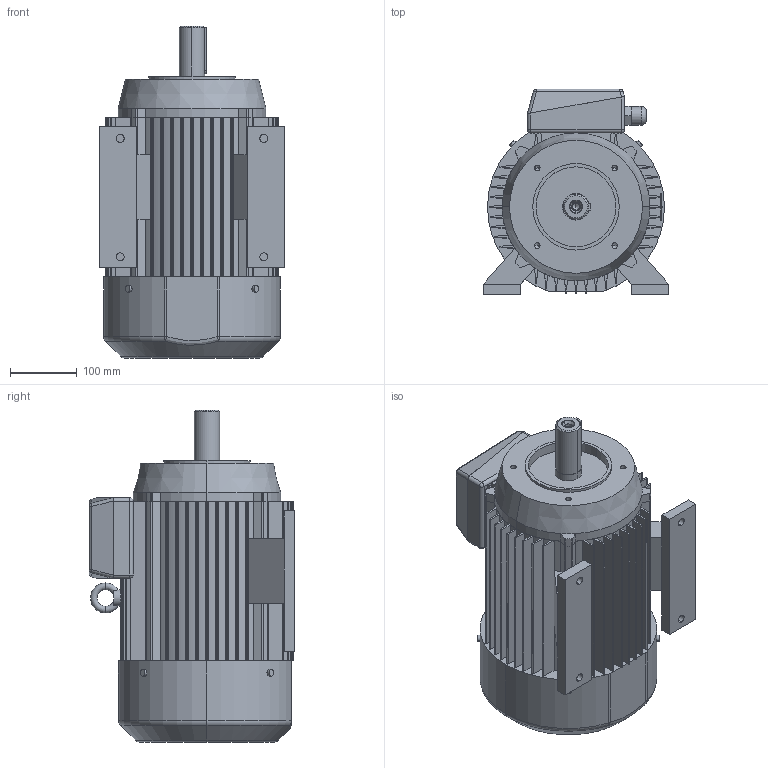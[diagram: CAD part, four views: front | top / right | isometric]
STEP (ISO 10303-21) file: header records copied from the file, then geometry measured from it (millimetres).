
FILE_DESCRIPTION (( 'STEP AP203' ), '1' );
FILE_NAME ('SLg 132M-B34-C2.STEP', '2010-04-14T13:26:07', ( 'INDUKTA' ), ( 'CANTONI MOTOR' ), 'SwSTEP 2.0', 'SolidWorks 2003064', '' );
FILE_SCHEMA (( 'CONFIG_CONTROL_DESIGN' ));
Length unit declared in the file: millimetre
Products named in the file (1): SLg 132M-B34-C2
Bounding box: 278 x 309 x 499 mm (x, y, z)
Volume: 20404893.5 mm3; surface area: 1076934.6 mm2
Topology: 14 solids, 14 shells, 534 faces, 1414 edges, 899 vertices
Faces by surface type: plane 252, cylinder 194, bspline 43, cone 22, torus 13, sphere 10
Entity records: 20074 total; most frequent: CARTESIAN_POINT 6880, ORIENTED_EDGE 2788, DIRECTION 2678, EDGE_CURVE 1394, AXIS2_PLACEMENT_3D 913, VERTEX_POINT 899, VECTOR 852, LINE 852
